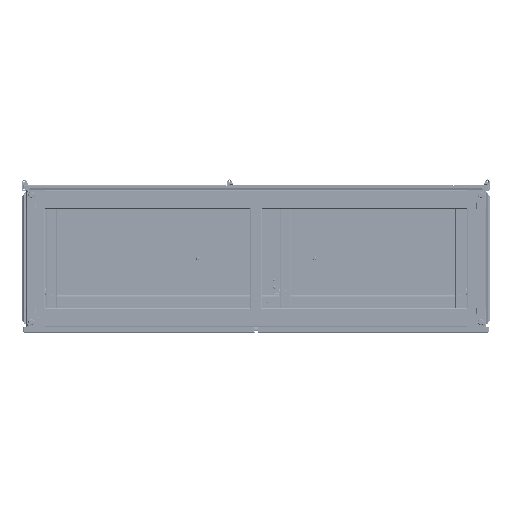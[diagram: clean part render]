
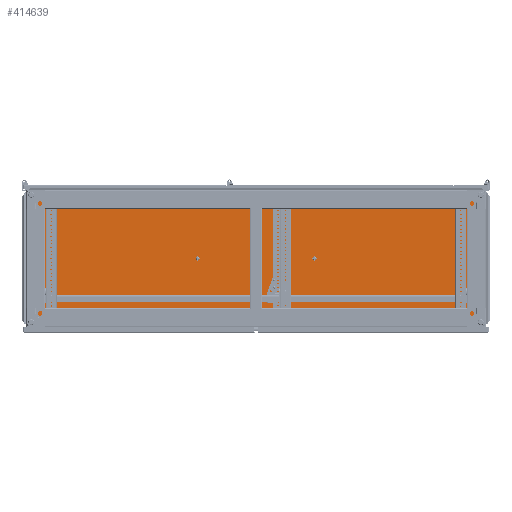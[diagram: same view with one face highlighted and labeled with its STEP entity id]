
A CAD part, front view. The second image highlights one B-rep face of the part: STEP entity #414639.
In plain terms, the highlighted planar face has unit normal (0, -1, 0).
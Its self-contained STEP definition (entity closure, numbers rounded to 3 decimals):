
#411933=DIRECTION('',(-1.,0.,0.));
#411934=VECTOR('',#411933,1562.5);
#411935=CARTESIAN_POINT('',(781.25,11.5,231.25));
#411936=LINE('',#411935,#411934);
#412273=DIRECTION('',(0.,0.,-1.));
#412274=VECTOR('',#412273,462.5);
#412275=CARTESIAN_POINT('',(-781.25,11.5,231.25));
#412276=LINE('',#412275,#412274);
#412292=DIRECTION('',(-1.,0.,0.));
#412293=VECTOR('',#412292,1562.5);
#412294=CARTESIAN_POINT('',(781.25,11.5,-231.25));
#412295=LINE('',#412294,#412293);
#412296=DIRECTION('',(0.,0.,-1.));
#412297=VECTOR('',#412296,462.5);
#412298=CARTESIAN_POINT('',(781.25,11.5,231.25));
#412299=LINE('',#412298,#412297);
#412300=CARTESIAN_POINT('',(767.5,11.5,217.5));
#412301=DIRECTION('',(0.,1.,0.));
#412302=DIRECTION('',(1.,0.,0.));
#412303=AXIS2_PLACEMENT_3D('',#412300,#412301,#412302);
#412305=CARTESIAN_POINT('',(767.5,11.5,217.5));
#412306=DIRECTION('',(0.,1.,0.));
#412307=DIRECTION('',(-1.,0.,0.));
#412308=AXIS2_PLACEMENT_3D('',#412305,#412306,#412307);
#412310=CARTESIAN_POINT('',(767.5,11.5,-217.5));
#412311=DIRECTION('',(0.,-1.,0.));
#412312=DIRECTION('',(1.,0.,0.));
#412313=AXIS2_PLACEMENT_3D('',#412310,#412311,#412312);
#412315=CARTESIAN_POINT('',(767.5,11.5,-217.5));
#412316=DIRECTION('',(0.,-1.,0.));
#412317=DIRECTION('',(-1.,0.,0.));
#412318=AXIS2_PLACEMENT_3D('',#412315,#412316,#412317);
#412320=CARTESIAN_POINT('',(-767.5,11.5,217.5));
#412321=DIRECTION('',(0.,-1.,0.));
#412322=DIRECTION('',(-1.,0.,0.));
#412323=AXIS2_PLACEMENT_3D('',#412320,#412321,#412322);
#412325=CARTESIAN_POINT('',(-767.5,11.5,217.5));
#412326=DIRECTION('',(0.,-1.,0.));
#412327=DIRECTION('',(1.,0.,0.));
#412328=AXIS2_PLACEMENT_3D('',#412325,#412326,#412327);
#412330=CARTESIAN_POINT('',(-767.5,11.5,-217.5));
#412331=DIRECTION('',(0.,1.,0.));
#412332=DIRECTION('',(-1.,0.,0.));
#412333=AXIS2_PLACEMENT_3D('',#412330,#412331,#412332);
#412335=CARTESIAN_POINT('',(-767.5,11.5,-217.5));
#412336=DIRECTION('',(0.,1.,0.));
#412337=DIRECTION('',(1.,0.,0.));
#412338=AXIS2_PLACEMENT_3D('',#412335,#412336,#412337);
#412340=CARTESIAN_POINT('',(0.,11.5,217.5));
#412341=DIRECTION('',(0.,1.,0.));
#412342=DIRECTION('',(0.,0.,1.));
#412343=AXIS2_PLACEMENT_3D('',#412340,#412341,#412342);
#412345=CARTESIAN_POINT('',(0.,11.5,217.5));
#412346=DIRECTION('',(0.,1.,0.));
#412347=DIRECTION('',(0.,0.,-1.));
#412348=AXIS2_PLACEMENT_3D('',#412345,#412346,#412347);
#412350=CARTESIAN_POINT('',(0.,11.5,-217.5));
#412351=DIRECTION('',(0.,-1.,0.));
#412352=DIRECTION('',(0.,0.,-1.));
#412353=AXIS2_PLACEMENT_3D('',#412350,#412351,#412352);
#412355=CARTESIAN_POINT('',(0.,11.5,-217.5));
#412356=DIRECTION('',(0.,-1.,0.));
#412357=DIRECTION('',(0.,0.,1.));
#412358=AXIS2_PLACEMENT_3D('',#412355,#412356,#412357);
#412360=CARTESIAN_POINT('',(699.75,11.5,0.));
#412361=DIRECTION('',(0.,-1.,0.));
#412362=DIRECTION('',(0.,0.,-1.));
#412363=AXIS2_PLACEMENT_3D('',#412360,#412361,#412362);
#412365=CARTESIAN_POINT('',(699.75,11.5,0.));
#412366=DIRECTION('',(0.,-1.,0.));
#412367=DIRECTION('',(0.,0.,1.));
#412368=AXIS2_PLACEMENT_3D('',#412365,#412366,#412367);
#412370=CARTESIAN_POINT('',(-699.75,11.5,0.));
#412371=DIRECTION('',(0.,-1.,0.));
#412372=DIRECTION('',(0.,0.,-1.));
#412373=AXIS2_PLACEMENT_3D('',#412370,#412371,#412372);
#412375=CARTESIAN_POINT('',(-699.75,11.5,0.));
#412376=DIRECTION('',(0.,-1.,0.));
#412377=DIRECTION('',(0.,0.,1.));
#412378=AXIS2_PLACEMENT_3D('',#412375,#412376,#412377);
#413177=CARTESIAN_POINT('',(777.993,11.5,217.5));
#413178=CARTESIAN_POINT('',(757.007,11.5,217.5));
#413179=VERTEX_POINT('',#413177);
#413180=VERTEX_POINT('',#413178);
#413201=CARTESIAN_POINT('',(777.993,11.5,-217.5));
#413202=CARTESIAN_POINT('',(757.007,11.5,-217.5));
#413203=VERTEX_POINT('',#413201);
#413204=VERTEX_POINT('',#413202);
#413225=CARTESIAN_POINT('',(-777.993,11.5,217.5));
#413226=CARTESIAN_POINT('',(-757.007,11.5,217.5));
#413227=VERTEX_POINT('',#413225);
#413228=VERTEX_POINT('',#413226);
#413249=CARTESIAN_POINT('',(-777.993,11.5,-217.5));
#413250=CARTESIAN_POINT('',(-757.007,11.5,-217.5));
#413251=VERTEX_POINT('',#413249);
#413252=VERTEX_POINT('',#413250);
#413261=CARTESIAN_POINT('',(699.75,11.5,-0.5));
#413262=CARTESIAN_POINT('',(699.75,11.5,0.5));
#413263=VERTEX_POINT('',#413261);
#413264=VERTEX_POINT('',#413262);
#413265=CARTESIAN_POINT('',(-699.75,11.5,-0.5));
#413266=CARTESIAN_POINT('',(-699.75,11.5,0.5));
#413267=VERTEX_POINT('',#413265);
#413268=VERTEX_POINT('',#413266);
#413293=CARTESIAN_POINT('',(781.25,11.5,231.25));
#413295=VERTEX_POINT('',#413293);
#413297=CARTESIAN_POINT('',(-781.25,11.5,231.25));
#413298=VERTEX_POINT('',#413297);
#413309=CARTESIAN_POINT('',(781.25,11.5,-231.25));
#413311=VERTEX_POINT('',#413309);
#413315=CARTESIAN_POINT('',(-781.25,11.5,-231.25));
#413316=VERTEX_POINT('',#413315);
#413361=CARTESIAN_POINT('',(0.,11.5,224.078));
#413362=CARTESIAN_POINT('',(0.,11.5,210.922));
#413363=VERTEX_POINT('',#413361);
#413364=VERTEX_POINT('',#413362);
#413385=CARTESIAN_POINT('',(0.,11.5,-224.078));
#413386=CARTESIAN_POINT('',(0.,11.5,-210.922));
#413387=VERTEX_POINT('',#413385);
#413388=VERTEX_POINT('',#413386);
#414580=CARTESIAN_POINT('',(781.25,11.5,-231.25));
#414581=DIRECTION('',(0.,1.,0.));
#414582=DIRECTION('',(0.,0.,1.));
#414583=AXIS2_PLACEMENT_3D('',#414580,#414581,#414582);
#414584=PLANE('',#414583);
#414585=ORIENTED_EDGE('',*,*,#414116,.T.);
#414586=ORIENTED_EDGE('',*,*,#414570,.F.);
#414587=ORIENTED_EDGE('',*,*,#414010,.F.);
#414588=ORIENTED_EDGE('',*,*,#414078,.T.);
#414589=EDGE_LOOP('',(#414585,#414586,#414587,#414588));
#414590=FACE_OUTER_BOUND('',#414589,.F.);
#414592=ORIENTED_EDGE('',*,*,#414591,.F.);
#414594=ORIENTED_EDGE('',*,*,#414593,.F.);
#414595=EDGE_LOOP('',(#414592,#414594));
#414596=FACE_BOUND('',#414595,.F.);
#414598=ORIENTED_EDGE('',*,*,#414597,.T.);
#414600=ORIENTED_EDGE('',*,*,#414599,.T.);
#414601=EDGE_LOOP('',(#414598,#414600));
#414602=FACE_BOUND('',#414601,.F.);
#414604=ORIENTED_EDGE('',*,*,#414603,.T.);
#414606=ORIENTED_EDGE('',*,*,#414605,.T.);
#414607=EDGE_LOOP('',(#414604,#414606));
#414608=FACE_BOUND('',#414607,.F.);
#414610=ORIENTED_EDGE('',*,*,#414609,.F.);
#414612=ORIENTED_EDGE('',*,*,#414611,.F.);
#414613=EDGE_LOOP('',(#414610,#414612));
#414614=FACE_BOUND('',#414613,.F.);
#414616=ORIENTED_EDGE('',*,*,#414615,.F.);
#414618=ORIENTED_EDGE('',*,*,#414617,.F.);
#414619=EDGE_LOOP('',(#414616,#414618));
#414620=FACE_BOUND('',#414619,.F.);
#414622=ORIENTED_EDGE('',*,*,#414621,.T.);
#414624=ORIENTED_EDGE('',*,*,#414623,.T.);
#414625=EDGE_LOOP('',(#414622,#414624));
#414626=FACE_BOUND('',#414625,.F.);
#414628=ORIENTED_EDGE('',*,*,#414627,.T.);
#414630=ORIENTED_EDGE('',*,*,#414629,.T.);
#414631=EDGE_LOOP('',(#414628,#414630));
#414632=FACE_BOUND('',#414631,.F.);
#414634=ORIENTED_EDGE('',*,*,#414633,.T.);
#414636=ORIENTED_EDGE('',*,*,#414635,.T.);
#414637=EDGE_LOOP('',(#414634,#414636));
#414638=FACE_BOUND('',#414637,.F.);
#414639=ADVANCED_FACE('',(#414590,#414596,#414602,#414608,#414614,#414620,
#414626,#414632,#414638),#414584,.F.);
#412304=CIRCLE('',#412303,10.493);
#412309=CIRCLE('',#412308,10.493);
#412314=CIRCLE('',#412313,10.493);
#412319=CIRCLE('',#412318,10.493);
#412324=CIRCLE('',#412323,10.493);
#412329=CIRCLE('',#412328,10.493);
#412334=CIRCLE('',#412333,10.493);
#412339=CIRCLE('',#412338,10.493);
#412344=CIRCLE('',#412343,6.578);
#412349=CIRCLE('',#412348,6.578);
#412354=CIRCLE('',#412353,6.578);
#412359=CIRCLE('',#412358,6.578);
#412364=CIRCLE('',#412363,0.5);
#412369=CIRCLE('',#412368,0.5);
#412374=CIRCLE('',#412373,0.5);
#412379=CIRCLE('',#412378,0.5);
#414010=EDGE_CURVE('',#413295,#413298,#411936,.T.);
#414078=EDGE_CURVE('',#413295,#413311,#412299,.T.);
#414116=EDGE_CURVE('',#413311,#413316,#412295,.T.);
#414570=EDGE_CURVE('',#413298,#413316,#412276,.T.);
#414591=EDGE_CURVE('',#413179,#413180,#412304,.T.);
#414593=EDGE_CURVE('',#413180,#413179,#412309,.T.);
#414597=EDGE_CURVE('',#413203,#413204,#412314,.T.);
#414599=EDGE_CURVE('',#413204,#413203,#412319,.T.);
#414603=EDGE_CURVE('',#413227,#413228,#412324,.T.);
#414605=EDGE_CURVE('',#413228,#413227,#412329,.T.);
#414609=EDGE_CURVE('',#413251,#413252,#412334,.T.);
#414611=EDGE_CURVE('',#413252,#413251,#412339,.T.);
#414615=EDGE_CURVE('',#413363,#413364,#412344,.T.);
#414617=EDGE_CURVE('',#413364,#413363,#412349,.T.);
#414621=EDGE_CURVE('',#413387,#413388,#412354,.T.);
#414623=EDGE_CURVE('',#413388,#413387,#412359,.T.);
#414627=EDGE_CURVE('',#413263,#413264,#412364,.T.);
#414629=EDGE_CURVE('',#413264,#413263,#412369,.T.);
#414633=EDGE_CURVE('',#413267,#413268,#412374,.T.);
#414635=EDGE_CURVE('',#413268,#413267,#412379,.T.);
